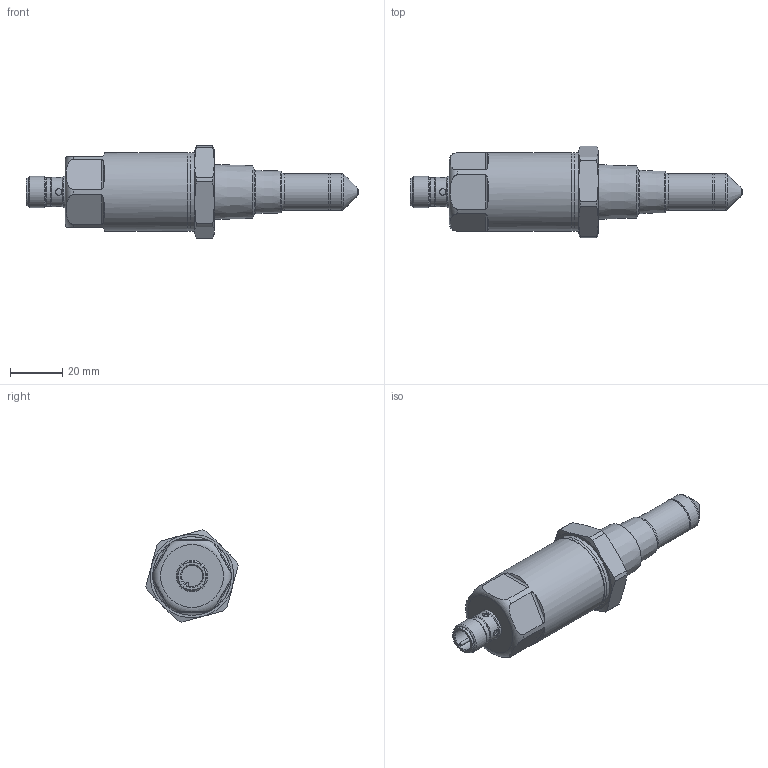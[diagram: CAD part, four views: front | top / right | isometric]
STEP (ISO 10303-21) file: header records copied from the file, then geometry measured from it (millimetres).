
FILE_DESCRIPTION( ( 'STEP AP203' ), '1' );
FILE_NAME( 'p:/temp/worker_9/temp/exporttempdir_508_123_xndrP/format_2/LMC502.stp', '2019-12-16T12:33:50', ( '' ), ( '' ), ' ', 'PARTsolutions', ' ' );
FILE_SCHEMA( ( 'CONFIG_CONTROL_DESIGN' ) );
Length unit declared in the file: millimetre
Products named in the file (1): _LMC502
Bounding box: 126.9 x 35.18 x 35.18 mm (x, y, z)
Volume: 52600.4 mm3; surface area: 10389.5 mm2
Topology: 1 solids, 1 shells, 91 faces, 205 edges, 127 vertices
Faces by surface type: cylinder 33, plane 31, cone 18, torus 8, bspline 1
Full cylindrical faces by diameter (mm): 2.5 x4, 8.4 x1, 10.6 x1, 10.8 x1, 11.3 x1, 12 x2, 14 x2, 21 x1, 30 x2, 30.1 x1
Entity records: 3017 total; most frequent: CARTESIAN_POINT 1153, DIRECTION 372, ORIENTED_EDGE 326, AXIS2_PLACEMENT_3D 164, EDGE_CURVE 163, EDGE_LOOP 139, VERTEX_POINT 123, FACE_OUTER_BOUND 115
